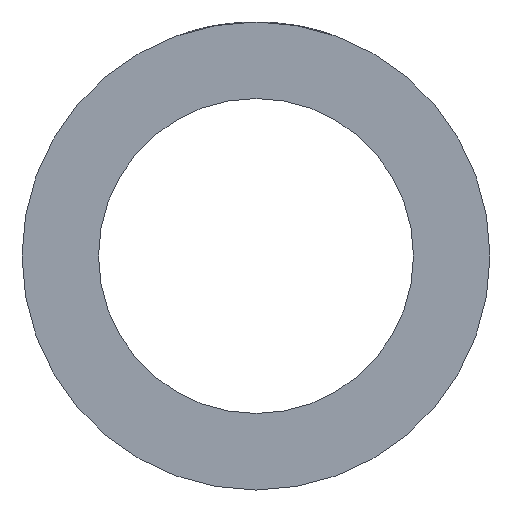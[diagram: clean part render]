
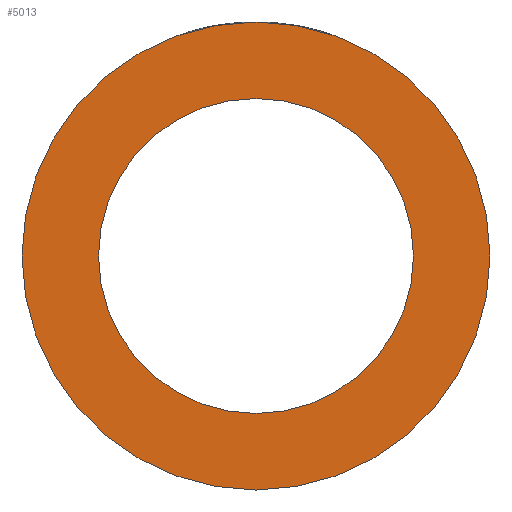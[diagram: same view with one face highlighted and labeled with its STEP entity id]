
A CAD part, left-side view. The second image highlights one B-rep face of the part: STEP entity #5013.
In plain terms, the highlighted planar face has unit normal (-1, 0, 0).
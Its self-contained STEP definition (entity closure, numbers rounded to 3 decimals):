
#121=PLANE('',#5398);
#1169=CIRCLE('',#5397,26.);
#1170=CIRCLE('',#5399,17.5);
#1482=ORIENTED_EDGE('',*,*,#3000,.T.);
#1483=ORIENTED_EDGE('',*,*,#2999,.F.);
#2999=EDGE_CURVE('',#3758,#3758,#1169,.T.);
#3000=EDGE_CURVE('',#3759,#3759,#1170,.T.);
#3758=VERTEX_POINT('',#7939);
#3759=VERTEX_POINT('',#7942);
#4278=EDGE_LOOP('',(#1482));
#4279=EDGE_LOOP('',(#1483));
#4640=FACE_BOUND('',#4278,.T.);
#4641=FACE_BOUND('',#4279,.T.);
#5013=ADVANCED_FACE('',(#4640,#4641),#121,.F.);
#5397=AXIS2_PLACEMENT_3D('',#7938,#5893,#5894);
#5398=AXIS2_PLACEMENT_3D('',#7940,#5895,#5896);
#5399=AXIS2_PLACEMENT_3D('',#7941,#5897,#5898);
#5893=DIRECTION('',(1.,0.,0.));
#5894=DIRECTION('',(0.,0.,-1.));
#5895=DIRECTION('',(1.,0.,0.));
#5896=DIRECTION('',(0.,0.,-1.));
#5897=DIRECTION('',(1.,0.,0.));
#5898=DIRECTION('',(0.,0.,-1.));
#7938=CARTESIAN_POINT('',(-35.,0.,0.));
#7939=CARTESIAN_POINT('',(-35.,0.,-26.));
#7940=CARTESIAN_POINT('',(-35.,0.,0.));
#7941=CARTESIAN_POINT('',(-35.,0.,0.));
#7942=CARTESIAN_POINT('',(-35.,0.,-17.5));
